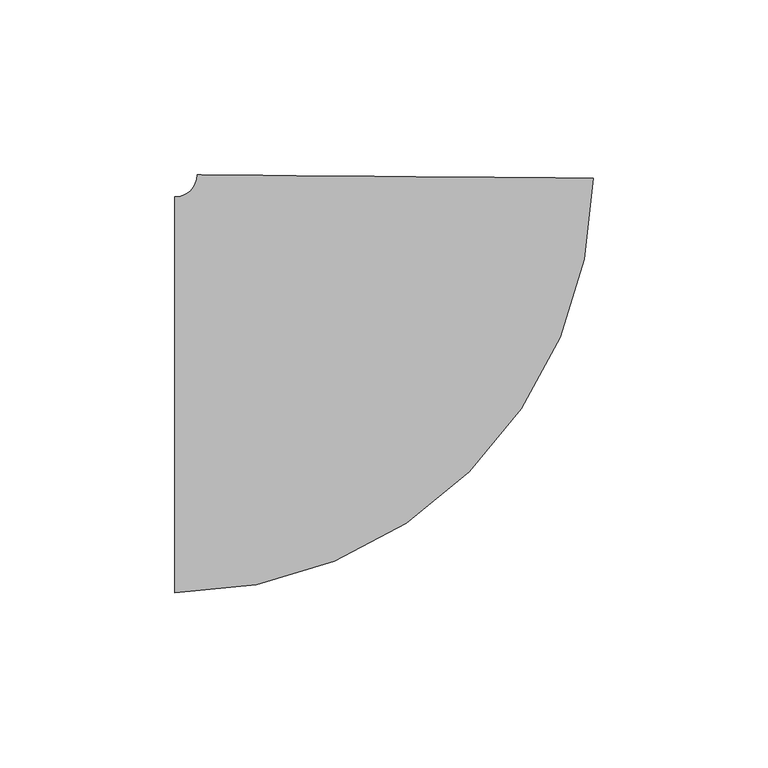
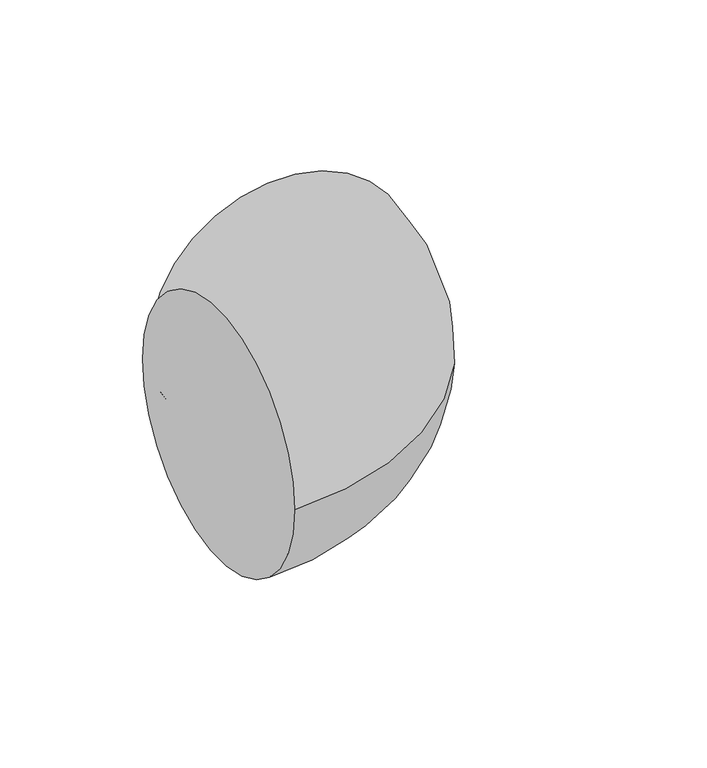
"""IFC4 building model written with IfcOpenShell, lengths in millimetres: pipe fitting geometry, M_Codo - Genérico : Estándar."""

from ifc_helpers import new_model, si_unit, point, frame, origin, place, context, project, spatial, circle_curve, ellipse_curve, trimmed, source, transform, mapped, element, save
from ifc_brep_helpers import plane_surface, revolved_surface, advanced_brep


def pipe_fitting_ee3f9bcc(model_context):
    return source(origin(), model_context, "Body", "AdvancedBrep", [
        advanced_brep(
        [(-62.4240661, -56.5875, 0.0), (-62.4240661, 56.5875, 0.0), (57.0969241, 61.9584575, 0.0), (-56.0742792, 62.8854864, 0.0)],
        [
            (0, 1, circle_curve(frame((-62.4240661, 0.0, 0.0), z_axis=(-1.0, 0.0, 0.0), x_axis=(0.0, 1.0, 0.0)), 56.5875)),
            (1, 0, circle_curve(frame((-62.4240661, 0.0, 0.0), z_axis=(-1.0, 0.0, 0.0), x_axis=(0.0, 1.0, 0.0)), 56.5875)),
            (2, 3, circle_curve(frame((0.5113224, 62.421972, 0.0), z_axis=(0.00819111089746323, 0.9999664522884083, 0.0), x_axis=(-0.9999664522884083, 0.00819111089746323, 0.0)), 56.5875)),
            (3, 2, circle_curve(frame((0.5113224, 62.421972, 0.0), z_axis=(0.00819111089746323, 0.9999664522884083, 0.0), x_axis=(-0.9999664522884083, 0.00819111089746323, 0.0)), 56.5875)),
            (3, 1, circle_curve(frame((-62.4240661, 62.9375, 0.0), z_axis=(0.0, 0.0, -1.0), x_axis=(0.0, -1.0, 0.0)), 6.35)),
            (0, 2, circle_curve(frame((-62.4240661, 62.9375, 0.0), z_axis=(0.0, 0.0, 1.0), x_axis=(0.0, -1.0, 0.0)), 119.525)),
        ],
        [
            plane_surface(frame((-62.4240661, 0.0, 0.0), z_axis=(-1.0, 0.0, 0.0), x_axis=(0.0, 0.0, 1.0))),
            plane_surface(frame((0.5113224, 62.421972, 0.0), z_axis=(0.008191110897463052, 0.9999664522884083, 0.0), x_axis=(0.0, 0.0, 1.0))),
            revolved_surface(trimmed(ellipse_curve(frame((-62.4240661, 0.0, 0.0), z_axis=(-1.0, 0.0, 0.0), x_axis=(0.0, 1.0, 0.0)), 56.5875, 56.5875), [point((-62.4240661, -56.5875, 0.0))], [point((-62.4240661, 56.5875, 0.0))], True, "CARTESIAN"), (-62.4240661, 62.9375, 0.0), (0.0, 0.0, 1.0)),
            revolved_surface(trimmed(ellipse_curve(frame((-62.4240661, 0.0, 0.0), z_axis=(-1.0, 0.0, 0.0), x_axis=(0.0, 1.0, 0.0)), 56.5875, 56.5875), [point((-62.4240661, 56.5875, 0.0))], [point((-62.4240661, -56.5875, 0.0))], True, "CARTESIAN"), (-62.4240661, 62.9375, 0.0), (0.0, 0.0, 1.0)),
        ],
        [
            (0, [[1, 2]]),
            (1, [[3, 4]]),
            (2, [[5, -1, 6, -4]]),
            (3, [[-6, -2, -5, -3]]),
        ],
    ),
    ])


if __name__ == "__main__":
    model = new_model("IFC4")
    model_context = context("Model", 3, world=origin())
    ifc_project = project(units=[si_unit("LENGTHUNIT", "METRE", prefix="MILLI")], contexts=[model_context])
    site = spatial("IfcSite", under=ifc_project)
    building = spatial("IfcBuilding", under=site)
    placement = place(None, origin())
    pipe_fitting_shape = pipe_fitting_ee3f9bcc(model_context)
    element("IfcPipeFitting", 1, ObjectType="M_Codo - Genérico : Estándar", at=placement, inside=building, context=model_context, shape_type="MappedRepresentation", body=[
        mapped(pipe_fitting_shape, transform((0.0, 0.0, 0.0), x_axis=(1.0, 0.0, 0.0), y_axis=(0.0, 1.0, 0.0), z_axis=(0.0, 0.0, 1.0))),
    ])
    save(model, "model.ifc")
